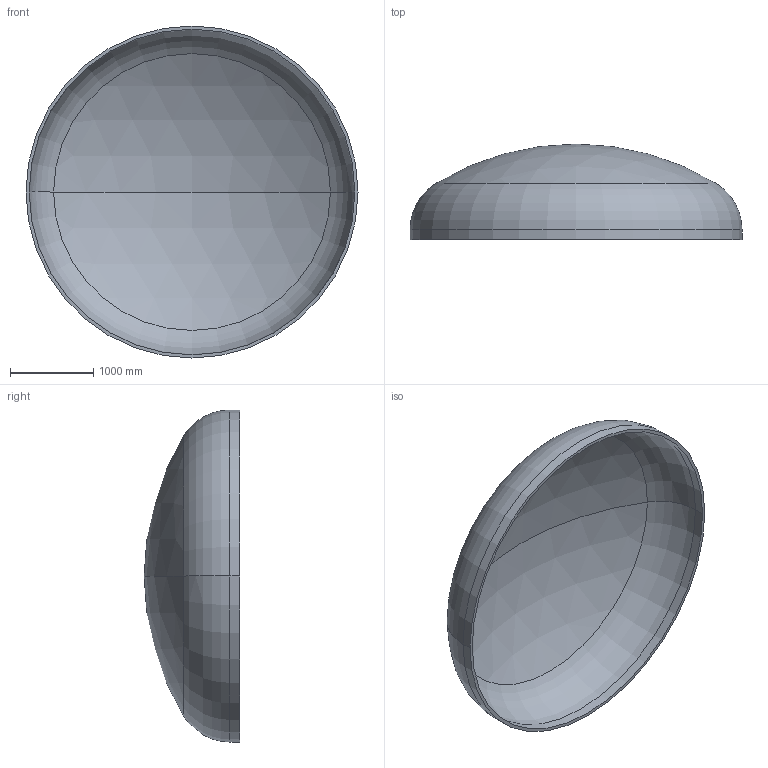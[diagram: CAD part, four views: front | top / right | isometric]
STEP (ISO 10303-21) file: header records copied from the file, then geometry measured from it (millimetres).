
FILE_DESCRIPTION (( 'STEP AP203' ), '1' );
FILE_NAME ('DIN 28013 Korbbogenform_-_Boden DIN 28013 - 4000 x 120 - I - s=38.step', '2016-07-01T22:21:01', ( '' ), ( '' ), 'SwSTEP 2.0', 'SolidWorks 2013', '' );
FILE_SCHEMA (( 'CONFIG_CONTROL_DESIGN' ));
Length unit declared in the file: millimetre
Products named in the file (1): DIN 28013 Korbbogenform_-_Boden DIN 28013 - 4000 x 120 - I - s=38
Bounding box: 4000 x 1151.69 x 4000 mm (x, y, z)
Volume: 709655296.8 mm3; surface area: 37826274.9 mm2
Topology: 1 solids, 1 shells, 13 faces, 24 edges, 14 vertices
Faces by surface type: torus 4, cylinder 4, sphere 4, plane 1
Entity records: 407 total; most frequent: DIRECTION 72, CARTESIAN_POINT 52, ORIENTED_EDGE 48, AXIS2_PLACEMENT_3D 34, EDGE_CURVE 24, CIRCLE 20, EDGE_LOOP 14, VERTEX_POINT 14
